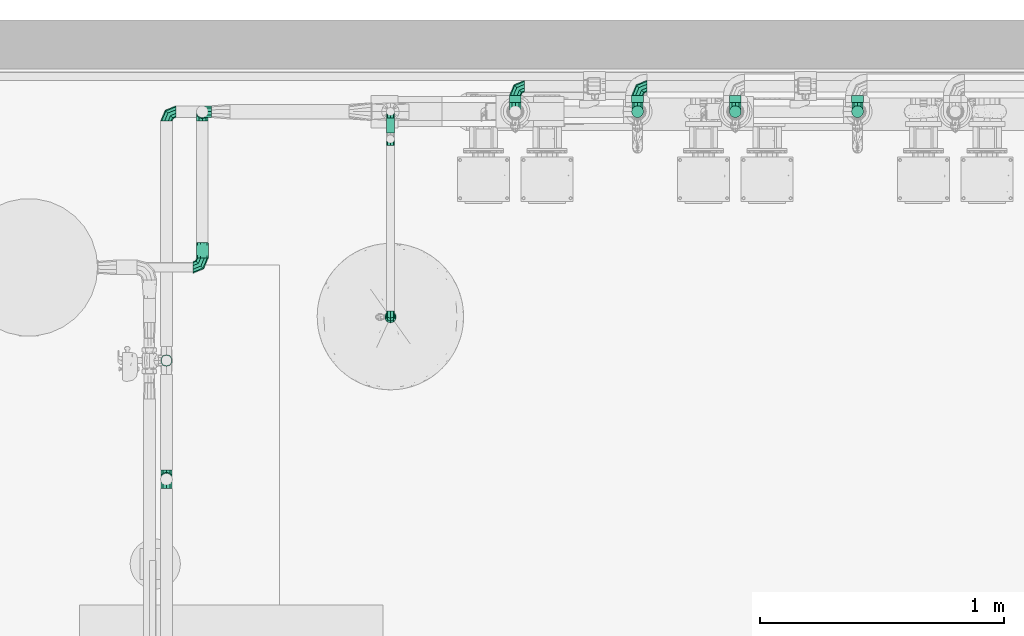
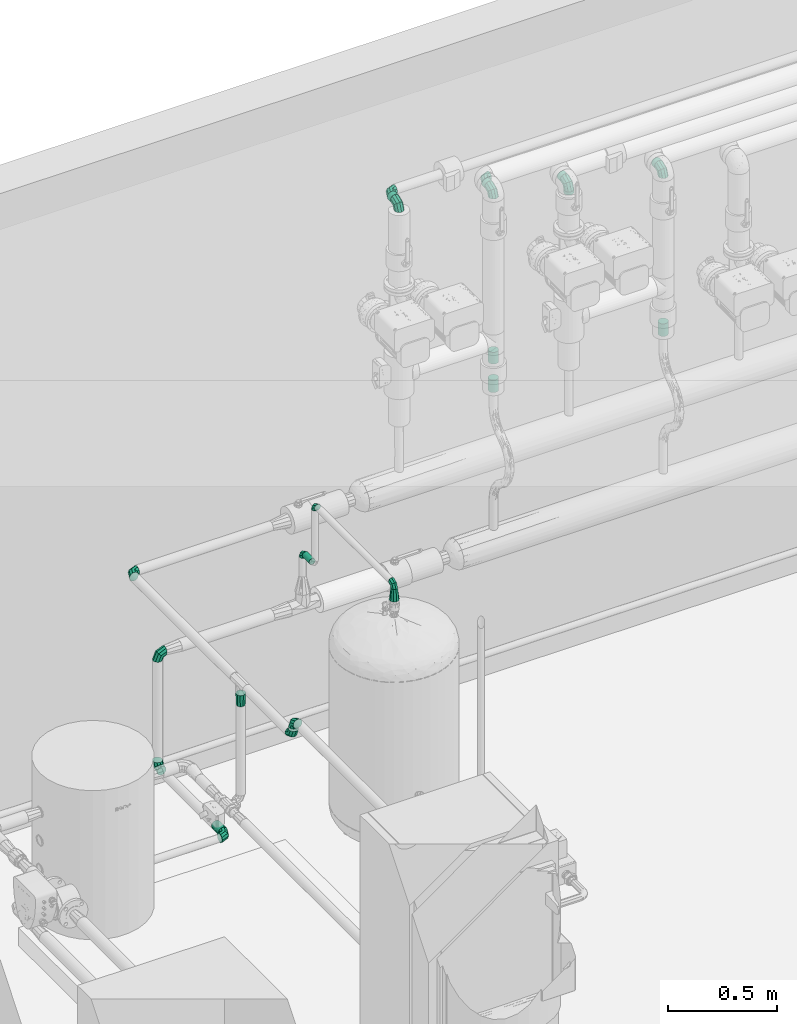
# One storey, part 88 of 94: 18 flow fittings, 9 flow segments.
"""IFC2X3 building model written with IfcOpenShell, lengths in millimetres."""

from ifc_helpers import new_model, entity, si_unit, converted_unit, derived_unit, direction, frame, frame_2d, origin, origin_2d_with_axis, place, context, subcontext, project, spatial, circle, extrude, faceted_brep, source, transform, mapped, material, type_object, type_shapes, element, save


model = new_model("IFC2X3")

# Units and contexts
model_context = context("Model", 3, precision=0.01, world=origin(), true_north=direction((6.123031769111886e-17, 1.0)))
body_context = subcontext(model_context, "Body", "Model", "MODEL_VIEW")
ifc_project = project(units=[si_unit("LENGTHUNIT", "METRE", prefix="MILLI"), si_unit("AREAUNIT", "SQUARE_METRE"), si_unit("VOLUMEUNIT", "CUBIC_METRE"), converted_unit("PLANEANGLEUNIT", "DEGREE", entity("IfcRatioMeasure", 0.017453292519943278), si_unit("PLANEANGLEUNIT", "RADIAN"), dimensions=[0, 0, 0, 0, 0, 0, 0]), si_unit("MASSUNIT", "GRAM", prefix="KILO"), derived_unit("MASSDENSITYUNIT", [(si_unit("MASSUNIT", "GRAM", prefix="KILO"), 1), (si_unit("LENGTHUNIT", "METRE"), -3)]), derived_unit("IONCONCENTRATIONUNIT", [(si_unit("MASSUNIT", "GRAM", prefix="KILO"), 1), (si_unit("LENGTHUNIT", "METRE"), -3)]), derived_unit("MOMENTOFINERTIAUNIT", [(si_unit("LENGTHUNIT", "METRE"), 4)]), si_unit("TIMEUNIT", "SECOND"), si_unit("FREQUENCYUNIT", "HERTZ"), si_unit("THERMODYNAMICTEMPERATUREUNIT", "DEGREE_CELSIUS"), derived_unit("THERMALTRANSMITTANCEUNIT", [(si_unit("MASSUNIT", "GRAM", prefix="KILO"), 1), (si_unit("THERMODYNAMICTEMPERATUREUNIT", "KELVIN"), -1), (si_unit("TIMEUNIT", "SECOND"), -3)]), derived_unit("THERMALCONDUCTANCEUNIT", [(si_unit("MASSUNIT", "GRAM", prefix="KILO"), 1), (si_unit("THERMODYNAMICTEMPERATUREUNIT", "KELVIN"), -1), (si_unit("TIMEUNIT", "SECOND"), -3), (si_unit("LENGTHUNIT", "METRE"), 1)]), derived_unit("VOLUMETRICFLOWRATEUNIT", [(si_unit("LENGTHUNIT", "METRE"), 3), (si_unit("TIMEUNIT", "SECOND"), -1)]), derived_unit("MASSFLOWRATEUNIT", [(si_unit("MASSUNIT", "GRAM", prefix="KILO"), 1), (si_unit("TIMEUNIT", "SECOND"), -1)]), derived_unit("ROTATIONALFREQUENCYUNIT", [(si_unit("TIMEUNIT", "SECOND"), -1)]), si_unit("ELECTRICCURRENTUNIT", "AMPERE"), si_unit("ELECTRICVOLTAGEUNIT", "VOLT"), si_unit("POWERUNIT", "WATT"), si_unit("FORCEUNIT", "NEWTON", prefix="KILO"), si_unit("ILLUMINANCEUNIT", "LUX"), si_unit("LUMINOUSFLUXUNIT", "LUMEN"), si_unit("LUMINOUSINTENSITYUNIT", "CANDELA"), derived_unit("USERDEFINED", [(si_unit("MASSUNIT", "GRAM", prefix="KILO"), -1), (si_unit("LENGTHUNIT", "METRE"), -2), (si_unit("TIMEUNIT", "SECOND"), 3), (si_unit("LUMINOUSFLUXUNIT", "LUMEN"), 1)]), derived_unit("USERDEFINED", [(si_unit("MASSUNIT", "GRAM", prefix="KILO"), 1), (si_unit("TIMEUNIT", "SECOND"), -3), (si_unit("LENGTHUNIT", "METRE"), 3), (si_unit("ELECTRICCURRENTUNIT", "AMPERE"), -2)]), derived_unit("SOUNDPOWERUNIT", [(si_unit("MASSUNIT", "GRAM", prefix="KILO"), 1), (si_unit("TIMEUNIT", "SECOND"), -3), (si_unit("LENGTHUNIT", "METRE"), 2)]), derived_unit("SOUNDPRESSUREUNIT", [(si_unit("MASSUNIT", "GRAM", prefix="KILO"), 1), (si_unit("LENGTHUNIT", "METRE"), -1), (si_unit("TIMEUNIT", "SECOND"), -2)]), derived_unit("LINEARVELOCITYUNIT", [(si_unit("LENGTHUNIT", "METRE"), 1), (si_unit("TIMEUNIT", "SECOND"), -1)]), si_unit("PRESSUREUNIT", "PASCAL"), derived_unit("USERDEFINED", [(si_unit("MASSUNIT", "GRAM", prefix="KILO"), 1), (si_unit("LENGTHUNIT", "METRE"), -2), (si_unit("TIMEUNIT", "SECOND"), -2)]), derived_unit("LINEARFORCEUNIT", [(si_unit("MASSUNIT", "GRAM", prefix="KILO"), 1), (si_unit("TIMEUNIT", "SECOND"), -2)]), derived_unit("PLANARFORCEUNIT", [(si_unit("MASSUNIT", "GRAM", prefix="KILO"), 1), (si_unit("LENGTHUNIT", "METRE"), -1), (si_unit("TIMEUNIT", "SECOND"), -2)]), derived_unit("SPECIFICHEATCAPACITYUNIT", [(si_unit("THERMODYNAMICTEMPERATUREUNIT", "KELVIN"), -1), (si_unit("LENGTHUNIT", "METRE"), 2), (si_unit("TIMEUNIT", "SECOND"), -2)]), derived_unit("HEATINGVALUEUNIT", [(si_unit("LENGTHUNIT", "METRE"), 2), (si_unit("TIMEUNIT", "SECOND"), -2)]), derived_unit("VAPORPERMEABILITYUNIT", [(si_unit("LENGTHUNIT", "METRE"), -1), (si_unit("TIMEUNIT", "SECOND"), 1)]), derived_unit("DYNAMICVISCOSITYUNIT", [(si_unit("MASSUNIT", "GRAM", prefix="KILO"), 1), (si_unit("TIMEUNIT", "SECOND"), -1), (si_unit("LENGTHUNIT", "METRE"), -1)]), derived_unit("THERMALEXPANSIONCOEFFICIENTUNIT", [(si_unit("THERMODYNAMICTEMPERATUREUNIT", "KELVIN"), -1)]), derived_unit("MODULUSOFELASTICITYUNIT", [(si_unit("MASSUNIT", "GRAM", prefix="KILO"), 1), (si_unit("LENGTHUNIT", "METRE"), -1), (si_unit("TIMEUNIT", "SECOND"), -2)]), derived_unit("ISOTHERMALMOISTURECAPACITYUNIT", [(si_unit("LENGTHUNIT", "METRE"), 3), (si_unit("MASSUNIT", "GRAM", prefix="KILO"), -1)]), derived_unit("MOISTUREDIFFUSIVITYUNIT", [(si_unit("TIMEUNIT", "SECOND"), -1), (si_unit("LENGTHUNIT", "METRE"), 2)])], contexts=[model_context])

# Site, building, storey
site_placement = place(None, origin())
site = spatial("IfcSite", under=ifc_project, at=site_placement, Name="Default", CompositionType="ELEMENT")
building_placement = place(site_placement, origin())
building = spatial("IfcBuilding", under=site, at=building_placement, CompositionType="ELEMENT")
storey_placement = place(building_placement, origin())
storey = spatial("IfcBuildingStorey", under=building, at=storey_placement, Name="Niveau 0", CompositionType="ELEMENT", Elevation=0.0)

# Flow segments
pipe_segment_type_1 = type_object("IfcPipeSegmentType", Name="Canalisation:Bride acier", PredefinedType="NOTDEFINED")
flow_segment_1_placement = place(storey_placement, origin())
element("IfcFlowSegment", 1, at=flow_segment_1_placement, inside=storey, type_object=pipe_segment_type_1, Name="Canalisation:Bride acier", ObjectType="Canalisation:Bride acier", context=body_context, shape_type="SweptSolid", body=[
    extrude(circle(Radius=24.13, at=origin_2d_with_axis()), frame((-10372.14586555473, 9960.47054616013, 2950.0), z_axis=(0.0, 1.0, 0.0), x_axis=(1.0, 0.0, 0.0)), (0.0, 0.0, 1.0), 28.37507841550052),
])
flow_segment_2_placement = place(storey_placement, origin())
element("IfcFlowSegment", 2, at=flow_segment_2_placement, inside=storey, type_object=pipe_segment_type_1, Name="Canalisation:Bride acier", ObjectType="Canalisation:Bride acier", context=body_context, shape_type="SweptSolid", body=[
    extrude(circle(Radius=24.13, at=origin_2d_with_axis()), frame((-9872.145865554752, 9960.470546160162, 2850.0), z_axis=(0.0, 1.0, 0.0), x_axis=(1.0, 0.0, 0.0)), (0.0, 0.0, 1.0), 28.375078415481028),
])
flow_segment_3_placement = place(storey_placement, origin())
element("IfcFlowSegment", 3, at=flow_segment_3_placement, inside=storey, type_object=pipe_segment_type_1, Name="Canalisation:Bride acier", ObjectType="Canalisation:Bride acier", context=body_context, shape_type="SweptSolid", body=[
    extrude(circle(Radius=24.13, at=origin_2d_with_axis()), frame((-9872.145865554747, 9922.470546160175, 1727.6034575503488)), (0.0, 0.0, 1.0), 70.12670509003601),
])
flow_segment_4_placement = place(storey_placement, origin())
element("IfcFlowSegment", 4, at=flow_segment_4_placement, inside=storey, type_object=pipe_segment_type_1, Name="Canalisation:Bride acier", ObjectType="Canalisation:Bride acier", context=body_context, shape_type="SweptSolid", body=[
    extrude(circle(Radius=24.13, at=origin_2d_with_axis()), frame((-9472.145865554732, 9960.47054616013, 2750.0), z_axis=(0.0, 1.0, 0.0), x_axis=(1.0, 0.0, 0.0)), (0.0, 0.0, 1.0), 28.37507841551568),
])
flow_segment_5_placement = place(storey_placement, origin())
element("IfcFlowSegment", 5, at=flow_segment_5_placement, inside=storey, type_object=pipe_segment_type_1, Name="Canalisation:Bride acier", ObjectType="Canalisation:Bride acier", context=body_context, shape_type="SweptSolid", body=[
    extrude(circle(Radius=24.13, at=origin_2d_with_axis()), frame((-8972.14586555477, 9960.47054616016, 2650.0), z_axis=(0.0, 1.0, 0.0), x_axis=(1.0, 0.0, 0.0)), (0.0, 0.0, 1.0), 28.375078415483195),
])
flow_segment_6_placement = place(storey_placement, origin())
element("IfcFlowSegment", 6, at=flow_segment_6_placement, inside=storey, type_object=pipe_segment_type_1, Name="Canalisation:Bride acier", ObjectType="Canalisation:Bride acier", context=body_context, shape_type="SweptSolid", body=[
    extrude(circle(Radius=24.13, at=origin_2d_with_axis()), frame((-8972.145865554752, 9922.47054616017, 1727.6034575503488)), (0.0, 0.0, 1.0), 70.12670509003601),
])
flow_segment_7_placement = place(storey_placement, origin())
element("IfcFlowSegment", 7, at=flow_segment_7_placement, inside=storey, type_object=pipe_segment_type_1, Name="Canalisation:Bride acier", ObjectType="Canalisation:Bride acier", context=body_context, shape_type="SweptSolid", body=[
    extrude(circle(Radius=24.13, at=origin_2d_with_axis()), frame((-9472.145865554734, 9922.470546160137, 2695.0), z_axis=(0.0, 0.0, 1.0), x_axis=(-1.0, 0.0, 0.0)), (0.0, 0.0, 1.0), 16.99999999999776),
])
flow_segment_8_placement = place(storey_placement, origin())
element("IfcFlowSegment", 8, at=flow_segment_8_placement, inside=storey, type_object=pipe_segment_type_1, Name="Canalisation:Bride acier", ObjectType="Canalisation:Bride acier", context=body_context, shape_type="SweptSolid", body=[
    extrude(circle(Radius=24.13, at=origin_2d_with_axis()), frame((-9872.14586555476, 9922.470546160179, 1887.730162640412)), (0.0, 0.0, 1.0), 65.8598027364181),
])

# Flow fittings
ifc_material = material(Name="<Unnamed>")
pipe_fitting_type_1 = type_object("IfcPipeFittingType", Name="Coude - Générique:Standard", PredefinedType="NOTDEFINED", material=ifc_material)
shared_shape_1 = source(origin(), body_context, "Body", "Brep", [
    faceted_brep([(5.946686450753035, -5.946686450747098, 0.0), (2.6853405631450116, -2.685340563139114, -14.195013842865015), (19.537760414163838, 38.0, -14.195013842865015), (24.1500000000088, 38.0, 0.0), (-5.852973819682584, 5.852973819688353, -22.968014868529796), (7.462760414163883, 38.0, -22.968014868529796), (-16.40691081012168, 16.40691081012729, -22.96801486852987), (-7.462760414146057, 38.0, -22.96801486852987), (-24.94522519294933, 24.94522519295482, -14.195013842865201), (-19.537760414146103, 38.0, -14.195013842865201), (-28.206571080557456, 28.206571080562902, 0.0), (-24.149999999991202, 38.0, 0.0), (-24.945225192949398, 24.945225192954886, 14.195013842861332), (-19.5377604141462, 38.0, 14.195013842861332), (-16.406910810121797, 16.40691081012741, 22.968014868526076), (-7.462760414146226, 38.0, 22.968014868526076), (-5.852973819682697, 5.852973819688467, 22.968014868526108), (7.462760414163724, 38.0, 22.968014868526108), (2.6853405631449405, -2.685340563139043, 14.195013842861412), (19.53776041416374, 38.0, 14.195013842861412), (-38.0, -24.150000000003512, 0.0), (-38.0, -19.53776041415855, -14.195013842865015), (-38.0, -7.462760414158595, -22.968014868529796), (-38.0, 7.462760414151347, -22.96801486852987), (-38.0, 19.537760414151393, -14.195013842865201), (-38.0, 24.149999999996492, 0.0), (-38.0, 19.537760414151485, 14.195013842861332), (-38.0, 7.462760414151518, 22.968014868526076), (-38.0, -7.462760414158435, 22.968014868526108), (-38.0, -19.537760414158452, 14.195013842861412)], [[[0, 1, 2, 3]], [[1, 4, 5, 2]], [[4, 6, 7, 5]], [[6, 8, 9, 7]], [[8, 10, 11, 9]], [[10, 12, 13, 11]], [[12, 14, 15, 13]], [[14, 16, 17, 15]], [[16, 18, 19, 17]], [[18, 0, 3, 19]], [[20, 21, 1, 0]], [[21, 22, 4, 1]], [[22, 23, 6, 4]], [[23, 24, 8, 6]], [[24, 25, 10, 8]], [[25, 26, 12, 10]], [[26, 27, 14, 12]], [[27, 28, 16, 14]], [[28, 29, 18, 16]], [[29, 20, 0, 18]], [[3, 2, 5, 7, 9, 11, 13, 15, 17, 19]], [[29, 28, 27, 26, 25, 24, 23, 22, 21, 20]]]),
])
type_shapes(pipe_fitting_type_1, [shared_shape_1])
for number, where, z_axis, x_axis in (
    (9, (-9872.145865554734, 10026.845624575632, 2850.0), (0.0, 0.0, 1.0), (-1.0, 0.0, 0.0)),
    (10, (-10372.145865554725, 10026.845624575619, 2950.0), (0.0, 0.0, 1.0), (-1.0, 0.0, 0.0)),
    (11, (-10372.145865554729, 9922.470546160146, 2950.0), (1.0, 0.0, 0.0), (0.0, -1.0, 0.0)),
    (12, (-9872.145865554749, 9922.470546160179, 2850.0), (1.0, 0.0, 0.0), (0.0, -1.0, 0.0)),
    (13, (-8972.145865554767, 9922.470546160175, 2650.0), (1.0, 0.0, 0.0), (0.0, -1.0, 0.0)),
    (14, (-9472.14586555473, 9922.470546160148, 2750.0), (1.0, 0.0, 0.0), (0.0, -1.0, 0.0)),
    (15, (-11799.290704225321, 8418.371391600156, 1466.2331676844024), (-1.0, 0.0, 0.0), (0.0, 1.0, 0.0)),
    (16, (-11799.290704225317, 8418.371391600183, 1377.6000000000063), (1.0, 0.0, 0.0), (0.0, 0.0, -1.0)),
    (17, (-11799.290704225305, 9922.47054616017, 1377.5999999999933), (-4.806942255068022e-06, 0.0, 1.0), (-1.0, 0.0, -4.806942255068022e-06)),
    (18, (-11652.538466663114, 9922.470546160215, 877.6034575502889), (0.0, -1.0, 0.0), (-1.0, 0.0, 0.0)),
    (19, (-11652.538466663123, 9922.470546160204, 238.33316768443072), (-1.0, 0.0, 0.0), (0.0, 0.0, -1.0)),
):
    element("IfcFlowFitting", number, at=place(storey_placement, frame(where, z_axis=z_axis, x_axis=x_axis)), inside=storey, type_object=pipe_fitting_type_1, material=ifc_material, Name="Coude - Générique:Standard", ObjectType="Coude - Générique:Standard", context=body_context, shape_type="MappedRepresentation", body=[
        mapped(shared_shape_1, transform((0.0, 0.0, 0.0), scale=1.0)),
    ])

# Flow segment
pipe_segment_type_2 = type_object("IfcPipeSegmentType", Name="Canalisation:Standard", PredefinedType="NOTDEFINED")
flow_segment_9_placement = place(storey_placement, origin())
element("IfcFlowSegment", 20, at=flow_segment_9_placement, inside=storey, type_object=pipe_segment_type_2, Name="Canalisation:Standard", ObjectType="Canalisation:Standard", context=body_context, shape_type="SweptSolid", body=[
    extrude(circle(Radius=16.7005, at=frame_2d((0.0, 3.3539021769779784e-27), x_axis=(1.0, 0.0))), frame((-10883.233218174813, 9835.064805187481, 1172.1185880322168), z_axis=(0.0, 1.0, 0.0), x_axis=(1.0, 0.0, 0.0)), (0.0, 0.0, 1.0), 62.40574097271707),
])

# Flow fittings
pipe_fitting_type_2 = type_object("IfcPipeFittingType", Name="Coude - Générique:Standard", PredefinedType="NOTDEFINED", material=ifc_material)
shared_shape_2 = source(origin(), body_context, "Body", "Brep", [
    faceted_brep([(4.486352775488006, -4.486352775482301, 0.0), (1.0276695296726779, -1.0276695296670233, -11.808683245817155), (11.808683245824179, 25.0, -11.808683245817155), (16.70000000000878, 25.0, 0.0), (-7.322330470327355, 7.322330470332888, -16.700000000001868), (0.0, 25.0, -16.700000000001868), (-15.672330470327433, 15.672330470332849, -11.808683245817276), (-11.808683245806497, 25.0, -11.808683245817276), (-19.131013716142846, 19.13101371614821, 0.0), (-16.699999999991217, 25.0, 0.0), (-15.672330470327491, 15.672330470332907, 11.808683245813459), (-11.808683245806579, 25.0, 11.808683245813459), (-7.322330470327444, 7.322330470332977, 16.699999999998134), (0.0, 25.0, 16.699999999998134), (1.0276695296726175, -1.027669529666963, 11.808683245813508), (11.808683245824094, 25.0, 11.808683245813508), (-25.0, -16.700000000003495, 0.0), (-25.0, -11.808683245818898, -11.808683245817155), (-25.0, 0.0, -16.700000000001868), (-25.0, 11.808683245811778, -11.808683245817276), (-25.0, 16.699999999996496, 0.0), (-25.0, 11.80868324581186, 11.808683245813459), (-25.0, 0.0, 16.699999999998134), (-25.0, -11.808683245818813, 11.808683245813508)], [[[0, 1, 2, 3]], [[1, 4, 5, 2]], [[4, 6, 7, 5]], [[6, 8, 9, 7]], [[8, 10, 11, 9]], [[10, 12, 13, 11]], [[12, 14, 15, 13]], [[14, 0, 3, 15]], [[16, 17, 1, 0]], [[17, 18, 4, 1]], [[18, 19, 6, 4]], [[19, 20, 8, 6]], [[20, 21, 10, 8]], [[21, 22, 12, 10]], [[22, 23, 14, 12]], [[23, 16, 0, 14]], [[3, 2, 5, 7, 9, 11, 13, 15]], [[23, 22, 21, 20, 19, 18, 17, 16]]]),
])
type_shapes(pipe_fitting_type_2, [shared_shape_2])
for number, where, z_axis, x_axis in (
    (21, (-10883.233218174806, 9922.470546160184, 1172.1185880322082), (-1.0, 0.0, 0.0), (0.0, 1.0, 0.0)),
    (22, (-10883.233218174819, 9810.06480575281, 1506.1299999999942), (1.0, 0.0, 0.0), (0.0, 0.0, 1.0)),
    (23, (-10883.233218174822, 9082.297419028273, 1506.1299999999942), (-1.0, 0.0, 0.0), (0.0, 0.0, 1.0)),
):
    element("IfcFlowFitting", number, at=place(storey_placement, frame(where, z_axis=z_axis, x_axis=x_axis)), inside=storey, type_object=pipe_fitting_type_2, material=ifc_material, Name="Coude - Générique:Standard", ObjectType="Coude - Générique:Standard", context=body_context, shape_type="MappedRepresentation", body=[
        mapped(shared_shape_2, transform((0.0, 0.0, 0.0), scale=1.0)),
    ])
pipe_fitting_type_3 = type_object("IfcPipeFittingType", Name="Transformation - Générique:Standard", PredefinedType="NOTDEFINED", material=ifc_material)
shared_shape_3 = source(origin(), body_context, "Body", "Brep", [
    faceted_brep([(64.0, 16.699999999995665, 0.0), (64.0, 15.477170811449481, 2.9521708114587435), (64.0, 14.254341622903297, 5.904341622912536), (64.0, 13.031512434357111, 8.85651243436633), (64.0, 11.808683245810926, 11.808683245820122), (64.0, 8.856512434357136, 13.031512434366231), (64.0, 5.9043416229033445, 14.25434162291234), (64.0, 2.952170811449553, 15.477170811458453), (64.0, 0.0, 16.700000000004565), (64.0, -2.9521708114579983, 15.477170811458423), (64.0, -5.904341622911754, 14.254341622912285), (64.0, -8.856512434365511, 13.031512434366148), (64.0, -11.808683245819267, 11.80868324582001), (64.0, -13.031512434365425, 8.856512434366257), (64.0, -14.254341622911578, 5.904341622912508), (64.0, -15.477170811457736, 2.9521708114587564), (64.0, -16.700000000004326, 0.0), (64.0, -15.477170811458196, -2.9521708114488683), (64.0, -14.254341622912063, -5.9043416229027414), (64.0, -13.031512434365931, -8.856512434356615), (64.0, -11.808683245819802, -11.80868324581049), (64.0, -8.856512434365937, -13.03151243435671), (64.0, -5.904341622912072, -14.254341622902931), (64.0, -2.9521708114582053, -15.477170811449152), (64.0, 0.0, -16.699999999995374), (64.0, 2.952170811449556, -15.477170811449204), (64.0, 5.904341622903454, -14.25434162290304), (64.0, 8.856512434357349, -13.031512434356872), (64.0, 11.808683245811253, -11.808683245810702), (64.0, 13.031512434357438, -8.85651243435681), (64.0, 14.254341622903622, -5.904341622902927), (64.0, 15.477170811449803, -2.952170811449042), (0.0, 13.500260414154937, 18.581514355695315), (0.0, 19.537760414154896, 14.195013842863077), (0.0, 20.690820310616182, 10.646260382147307), (0.0, 21.843880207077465, 7.097506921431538), (0.0, 24.150000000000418, 0.0), (0.0, 21.843880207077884, -7.097506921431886), (0.0, 19.537760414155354, -14.195013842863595), (0.0, 13.500260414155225, -18.58151435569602), (0.0, 7.4627604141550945, -22.96801486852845), (0.0, 0.0, -22.96801486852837), (0.0, -7.4627604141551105, -22.968014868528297), (0.0, -13.500260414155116, -18.581514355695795), (0.0, -19.537760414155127, -14.195013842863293), (0.0, -20.690820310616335, -10.646260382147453), (0.0, -21.84388020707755, -7.0975069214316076), (0.0, -24.149999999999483, 0.0), (0.0, -21.84388020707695, 7.097506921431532), (0.0, -19.53776041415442, 14.195013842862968), (0.0, -13.50026041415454, 18.581514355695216), (0.0, -7.462760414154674, 22.968014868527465), (0.0, 0.0, 22.968014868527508), (0.0, 7.462760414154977, 22.96801486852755)], [[[0, 1, 2, 3, 4, 5, 6, 7, 8, 9, 10, 11, 12, 13, 14, 15, 16, 17, 18, 19, 20, 21, 22, 23, 24, 25, 26, 27, 28, 29, 30, 31]], [[32, 33, 34, 35, 36, 37, 38, 39, 40, 41, 42, 43, 44, 45, 46, 47, 48, 49, 50, 51, 52, 53]], [[44, 20, 19]], [[39, 38, 28]], [[18, 46, 45]], [[39, 28, 27, 26]], [[36, 31, 37]], [[26, 40, 39]], [[41, 25, 24]], [[29, 28, 38, 30]], [[20, 44, 43]], [[23, 41, 24]], [[47, 17, 16]], [[30, 38, 37]], [[43, 22, 21, 20]], [[17, 47, 46]], [[41, 23, 42]], [[40, 25, 41]], [[40, 26, 25]], [[23, 22, 42]], [[31, 36, 0]], [[18, 17, 46]], [[44, 19, 45]], [[19, 18, 45]], [[22, 43, 42]], [[31, 30, 37]], [[33, 4, 3]], [[50, 49, 12]], [[2, 35, 34]], [[50, 12, 11, 10]], [[47, 15, 48]], [[10, 51, 50]], [[52, 9, 8]], [[13, 12, 49, 14]], [[4, 33, 32]], [[7, 52, 8]], [[36, 1, 0]], [[14, 49, 48]], [[32, 6, 5, 4]], [[1, 36, 35]], [[52, 7, 53]], [[51, 9, 52]], [[51, 10, 9]], [[7, 6, 53]], [[15, 47, 16]], [[2, 1, 35]], [[33, 3, 34]], [[3, 2, 34]], [[6, 32, 53]], [[15, 14, 48]]]),
])
type_shapes(pipe_fitting_type_3, [shared_shape_3])
flow_fitting_1_placement = place(storey_placement, frame((-10883.233218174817, 9082.297419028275, 1417.1299999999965), z_axis=(-1.0, 0.0, 0.0), x_axis=(0.0, 0.0, 1.0)))
element("IfcFlowFitting", 24, at=flow_fitting_1_placement, inside=storey, type_object=pipe_fitting_type_3, material=ifc_material, Name="Transformation - Générique:Standard", ObjectType="Transformation - Générique:Standard", context=body_context, shape_type="MappedRepresentation", body=[
    mapped(shared_shape_3, transform((0.0, 0.0, 0.0), scale=1.0)),
])
pipe_fitting_type_4 = type_object("IfcPipeFittingType", Name="Transformation - Générique:Standard", PredefinedType="NOTDEFINED", material=ifc_material)
shared_shape_4 = source(origin(), body_context, "Body", "Brep", [
    faceted_brep([(64.0, -21.100000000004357, 0.0), (64.0, -19.08512929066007, -6.201134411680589), (64.0, -17.070258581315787, -12.402268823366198), (64.0, -11.795258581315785, -16.23478065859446), (64.0, -6.520258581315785, -20.067292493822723), (64.0, 0.0, -20.067292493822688), (64.0, 6.52025858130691, -20.067292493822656), (64.0, 11.795258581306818, -16.23478065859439), (64.0, 17.070258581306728, -12.402268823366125), (64.0, 19.085129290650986, -6.201134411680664), (64.0, 21.099999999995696, 0.0), (64.0, 19.085129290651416, 6.201134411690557), (64.0, 17.070258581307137, 12.402268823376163), (64.0, 11.795258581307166, 16.23478065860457), (64.0, 6.5202585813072, 20.067292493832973), (64.0, 0.0, 20.067292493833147), (64.0, -6.520258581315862, 20.067292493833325), (64.0, -11.795258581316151, 16.234780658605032), (64.0, -17.07025858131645, 12.402268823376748), (64.0, -19.085129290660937, 6.201134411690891), (0.0, -19.537760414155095, -14.195013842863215), (0.0, -21.01363081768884, -9.652751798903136), (0.0, -22.489501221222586, -5.110489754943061), (0.0, -24.150000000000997, 0.0), (0.0, -21.843880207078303, 7.097506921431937), (0.0, -19.537760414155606, 14.195013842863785), (0.0, -13.500260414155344, 18.58151435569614), (0.0, -7.462760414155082, 22.968014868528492), (0.0, 0.0, 22.968014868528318), (0.0, 7.462760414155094, 22.96801486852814), (0.0, 13.500260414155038, 18.58151435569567), (0.0, 19.537760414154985, 14.195013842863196), (0.0, 21.013630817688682, 9.652751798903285), (0.0, 22.48950122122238, 5.110489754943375), (0.0, 24.14999999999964, 0.0), (0.0, 21.843880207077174, -7.097506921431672), (0.0, 19.537760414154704, -14.195013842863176), (0.0, 13.500260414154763, -18.581514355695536), (0.0, 7.46276041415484, -22.968014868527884), (0.0, 0.0, -22.96801486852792), (0.0, -7.462760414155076, -22.96801486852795), (0.0, -13.500260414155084, -18.58151435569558)], [[[0, 1, 2, 3, 4, 5, 6, 7, 8, 9, 10, 11, 12, 13, 14, 15, 16, 17, 18, 19]], [[20, 21, 22, 23, 24, 25, 26, 27, 28, 29, 30, 31, 32, 33, 34, 35, 36, 37, 38, 39, 40, 41]], [[9, 8, 36, 35, 34, 10]], [[39, 38, 6, 5, 4, 40]], [[38, 37, 36, 8, 7, 6]], [[4, 3, 2, 20, 41, 40]], [[21, 20, 2, 1, 0, 23, 22]], [[19, 18, 25, 24, 23, 0]], [[28, 27, 16, 15, 14, 29]], [[27, 26, 25, 18, 17, 16]], [[14, 13, 12, 31, 30, 29]], [[32, 31, 12, 11, 10, 34, 33]]]),
])
type_shapes(pipe_fitting_type_4, [shared_shape_4])
flow_fitting_2_placement = place(storey_placement, frame((-11799.29070422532, 8904.163679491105, 1320.6000000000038), z_axis=(-1.0, 0.0, 0.0), x_axis=(0.0, 0.0, -1.0)))
element("IfcFlowFitting", 25, at=flow_fitting_2_placement, inside=storey, type_object=pipe_fitting_type_4, material=ifc_material, Name="Transformation - Générique:Standard", ObjectType="Transformation - Générique:Standard", context=body_context, shape_type="MappedRepresentation", body=[
    mapped(shared_shape_4, transform((0.0, 0.0, 0.0), scale=1.0)),
])
pipe_fitting_type_5 = type_object("IfcPipeFittingType", Name="Coude - Générique:Standard", PredefinedType="NOTDEFINED", material=ifc_material)
shared_shape_5 = source(origin(), body_context, "Body", "Brep", [
    faceted_brep([(6.207183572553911, -6.207183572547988, 0.0), (2.9311198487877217, -2.931119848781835, -14.259073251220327), (19.62593062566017, 37.37371874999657, -14.259073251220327), (24.2589843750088, 37.37371874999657, 0.0), (-5.645726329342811, 5.6457263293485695, -23.071665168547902), (7.496438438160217, 37.37371874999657, -23.071665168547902), (-16.24729123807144, 16.247291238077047, -23.071665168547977), (-7.4964384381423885, 37.37371874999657, -23.071665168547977), (-24.824137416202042, 24.82413741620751, -14.259073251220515), (-19.625930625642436, 37.37371874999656, -14.259073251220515), (-28.100201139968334, 28.100201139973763, 0.0), (-24.258984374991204, 37.37371874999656, 0.0), (-24.82413741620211, 24.824137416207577, 14.259073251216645), (-19.625930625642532, 37.37371874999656, 14.259073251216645), (-16.24729123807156, 16.247291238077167, 23.07166516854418), (-7.496438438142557, 37.37371874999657, 23.07166516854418), (-5.645726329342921, 5.64572632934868, 23.071665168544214), (7.496438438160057, 37.37371874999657, 23.071665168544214), (2.9311198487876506, -2.931119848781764, 14.259073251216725), (19.62593062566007, 37.37371874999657, 14.259073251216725), (-37.37371874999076, -24.258984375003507, 0.0), (-37.37371874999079, -19.62593062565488, -14.259073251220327), (-37.37371874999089, -7.496438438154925, -23.071665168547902), (-37.37371874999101, 7.496438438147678, -23.071665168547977), (-37.37371874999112, 19.625930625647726, -14.259073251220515), (-37.373718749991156, 24.258984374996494, 0.0), (-37.37371874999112, 19.625930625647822, 14.259073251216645), (-37.37371874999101, 7.496438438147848, 23.07166516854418), (-37.37371874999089, -7.496438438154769, 23.071665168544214), (-37.37371874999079, -19.62593062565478, 14.259073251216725)], [[[0, 1, 2, 3]], [[1, 4, 5, 2]], [[4, 6, 7, 5]], [[6, 8, 9, 7]], [[8, 10, 11, 9]], [[10, 12, 13, 11]], [[12, 14, 15, 13]], [[14, 16, 17, 15]], [[16, 18, 19, 17]], [[18, 0, 3, 19]], [[20, 21, 1, 0]], [[21, 22, 4, 1]], [[22, 23, 6, 4]], [[23, 24, 8, 6]], [[24, 25, 10, 8]], [[25, 26, 12, 10]], [[26, 27, 14, 12]], [[27, 28, 16, 14]], [[28, 29, 18, 16]], [[29, 20, 0, 18]], [[3, 2, 5, 7, 9, 11, 13, 15, 17, 19]], [[29, 28, 27, 26, 25, 24, 23, 22, 21, 20]]]),
])
type_shapes(pipe_fitting_type_5, [shared_shape_5])
flow_fitting_3_placement = place(storey_placement, frame((-11652.53846666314, 9285.477679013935, 238.37530330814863)))
element("IfcFlowFitting", 26, at=flow_fitting_3_placement, inside=storey, type_object=pipe_fitting_type_5, material=ifc_material, Name="Coude - Générique:Standard", ObjectType="Coude - Générique:Standard", context=body_context, shape_type="MappedRepresentation", body=[
    mapped(shared_shape_5, transform((0.0, 0.0, 0.0), scale=1.0)),
])
pipe_fitting_type_6 = type_object("IfcPipeFittingType", Name="Transformation - Générique:Standard", PredefinedType="NOTDEFINED", material=ifc_material)
shared_shape_6 = source(origin(), body_context, "Body", "Brep", [
    faceted_brep([(64.0, 24.149999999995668, -0.042135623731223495), (64.0, 21.843880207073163, 7.0553712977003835), (64.0, 19.537760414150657, 14.152878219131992), (64.0, 13.500260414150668, 18.539378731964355), (64.0, 7.462760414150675, 22.925879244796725), (64.0, 0.0, 22.925879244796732), (64.0, -7.462760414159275, 22.925879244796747), (64.0, -13.500260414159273, 18.5393787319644), (64.0, -19.53776041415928, 14.152878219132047), (64.0, -21.843880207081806, 7.055371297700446), (64.0, -24.150000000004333, -0.04213562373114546), (64.0, -21.84388020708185, -7.139642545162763), (64.0, -19.537760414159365, -14.23714946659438), (64.0, -13.500260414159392, -18.623649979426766), (64.0, -7.462760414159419, -23.010150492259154), (64.0, 0.0, -23.010150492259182), (64.0, 7.462760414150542, -23.010150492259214), (64.0, 13.500260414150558, -18.623649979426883), (64.0, 19.53776041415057, -14.237149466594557), (64.0, 21.843880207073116, -7.139642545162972), (0.0, -24.258984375, 0.0), (0.0, -22.700312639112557, 4.7970983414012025), (0.0, -21.141640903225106, 9.594196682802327), (0.0, -19.62593062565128, 14.259073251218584), (0.0, -13.561184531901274, 18.665369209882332), (0.0, -7.496438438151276, 23.07166516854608), (0.0, 0.0, 23.071665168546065), (0.0, 7.496438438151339, 23.071665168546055), (0.0, 13.56118453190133, 18.66536920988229), (0.0, 19.62593062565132, 14.25907325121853), (0.0, 21.14164056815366, 9.59419771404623), (0.0, 22.70031247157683, 4.797098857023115), (0.0, 24.258984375, 0.0), (0.0, 22.70031089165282, -4.797103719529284), (0.0, 21.14163740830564, -9.594207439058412), (0.0, 19.625930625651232, -14.259073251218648), (0.0, 13.561184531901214, -18.66536920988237), (0.0, 7.4964384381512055, -23.0716651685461), (0.0, 0.0, -23.071665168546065), (0.0, -7.4964384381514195, -23.071665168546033), (0.0, -13.56118453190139, -18.66536920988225), (0.0, -19.625930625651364, -14.259073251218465), (0.0, -21.141637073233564, -9.59420847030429), (0.0, -22.700310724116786, -4.797104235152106), (29.625534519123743, -23.001791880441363, -7.567402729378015), (31.999999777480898, -20.938158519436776, -12.164006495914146), (32.0, 20.938159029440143, -12.164005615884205), (32.0, 17.546224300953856, -16.694023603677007), (32.0, 10.988609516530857, -21.58742825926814), (32.0, -10.988609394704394, -21.587428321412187), (32.00000006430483, -17.54622323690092, -16.69402472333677), (32.0, -3.7864167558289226, -23.927562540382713), (34.880512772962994, -24.199587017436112, -0.0229642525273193), (32.0, 3.786416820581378, -23.927562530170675), (29.625536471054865, 23.001792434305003, -7.567401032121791), (34.88050814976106, 24.199587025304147, -0.02296424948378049), (29.625539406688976, 23.001794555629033, 7.528385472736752), (31.99999977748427, 20.93816139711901, 12.121865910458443), (32.0, -20.938161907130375, 12.121865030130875), (32.0, -17.546233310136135, 16.651878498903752), (32.0, -10.988609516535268, 21.545292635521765), (32.0, 10.988609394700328, 21.545292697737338), (32.00000006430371, 17.54623224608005, 16.651879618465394), (32.0, 3.786416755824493, 23.885426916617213), (32.0, -3.7864168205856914, 23.885426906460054), (29.625541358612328, -23.00179510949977, 7.528383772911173)], [[[0, 1, 2, 3, 4, 5, 6, 7, 8, 9, 10, 11, 12, 13, 14, 15, 16, 17, 18, 19]], [[20, 21, 22, 23, 24, 25, 26, 27, 28, 29, 30, 31, 32, 33, 34, 35, 36, 37, 38, 39, 40, 41, 42, 43]], [[11, 44, 45]], [[35, 46, 47]], [[16, 48, 17]], [[40, 49, 50]], [[42, 41, 45]], [[50, 45, 41]], [[49, 40, 39]], [[45, 44, 42]], [[14, 49, 51]], [[43, 52, 20]], [[10, 52, 11]], [[16, 53, 48]], [[15, 51, 53]], [[13, 12, 50]], [[46, 18, 47]], [[17, 48, 47]], [[34, 54, 46]], [[12, 45, 50]], [[13, 50, 49]], [[40, 50, 41]], [[15, 14, 51]], [[15, 53, 16]], [[37, 53, 51, 39, 38]], [[11, 45, 12]], [[46, 35, 34]], [[19, 54, 55]], [[19, 55, 0]], [[33, 32, 55]], [[19, 18, 46]], [[17, 47, 18]], [[36, 35, 47]], [[52, 43, 44]], [[43, 42, 44]], [[52, 44, 11]], [[54, 34, 33]], [[55, 54, 33]], [[46, 54, 19]], [[51, 49, 39]], [[13, 49, 14]], [[48, 53, 37]], [[37, 36, 48]], [[47, 48, 36]], [[1, 56, 57]], [[23, 58, 59]], [[6, 60, 7]], [[28, 61, 62]], [[30, 29, 57]], [[62, 57, 29]], [[61, 28, 27]], [[57, 56, 30]], [[4, 61, 63]], [[31, 55, 32]], [[0, 55, 1]], [[6, 64, 60]], [[5, 63, 64]], [[3, 2, 62]], [[58, 8, 59]], [[7, 60, 59]], [[22, 65, 58]], [[2, 57, 62]], [[3, 62, 61]], [[28, 62, 29]], [[5, 4, 63]], [[5, 64, 6]], [[25, 64, 63, 27, 26]], [[1, 57, 2]], [[58, 23, 22]], [[9, 65, 52]], [[9, 52, 10]], [[21, 20, 52]], [[9, 8, 58]], [[7, 59, 8]], [[24, 23, 59]], [[55, 31, 56]], [[31, 30, 56]], [[55, 56, 1]], [[65, 22, 21]], [[52, 65, 21]], [[58, 65, 9]], [[63, 61, 27]], [[3, 61, 4]], [[60, 64, 25]], [[25, 24, 60]], [[59, 60, 24]]]),
])
type_shapes(pipe_fitting_type_6, [shared_shape_6])
flow_fitting_4_placement = place(storey_placement, frame((-11652.538466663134, 9322.851397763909, 238.37530330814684), z_axis=(0.0, 0.0, 1.0), x_axis=(0.0, 1.0, 0.0)))
element("IfcFlowFitting", 27, at=flow_fitting_4_placement, inside=storey, type_object=pipe_fitting_type_6, material=ifc_material, Name="Transformation - Générique:Standard", ObjectType="Transformation - Générique:Standard", context=body_context, shape_type="MappedRepresentation", body=[
    mapped(shared_shape_6, transform((0.0, 0.0, 0.0), scale=1.0)),
])

save(model, "model.ifc")
